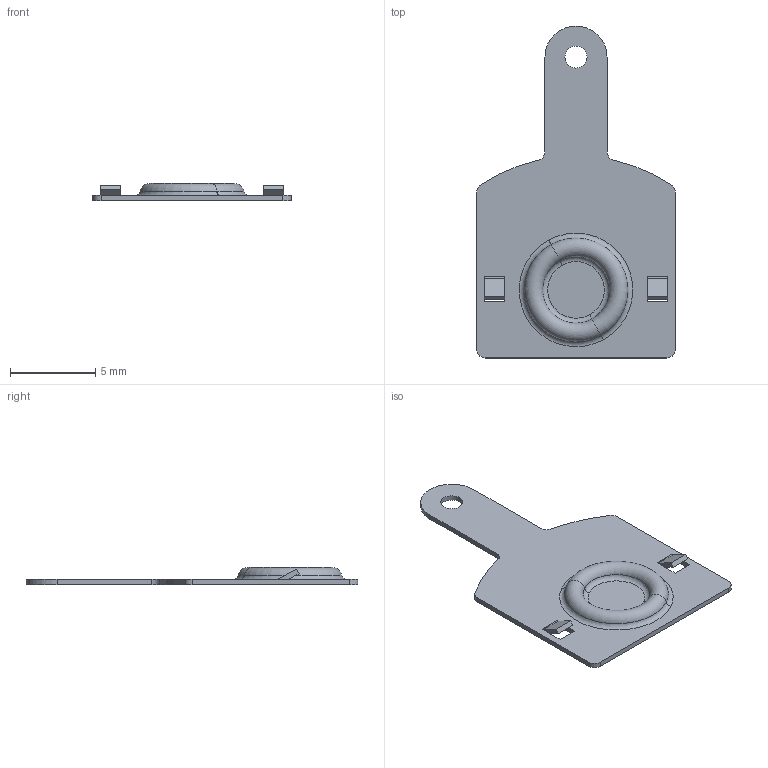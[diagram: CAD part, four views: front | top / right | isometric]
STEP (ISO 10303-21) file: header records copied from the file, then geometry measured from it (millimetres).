
FILE_DESCRIPTION(('CATIA V5 STEP Exchange'),'2;1');
FILE_NAME('X:\XDrive\Homepage\homes\techecke\elektronik\download\AA-Batteriekontakt_Plus.stp','2026-05-14T12:19:27+00:00',('none'),('none'),'CATIA Version 5 Release 19 SP 2 (IN-10)','CATIA V5 STEP AP203','none');
FILE_SCHEMA(('CONFIG_CONTROL_DESIGN'));
Length unit declared in the file: millimetre
Products named in the file (1): AA-Batteriekontakt_Plus
Bounding box: 11.65 x 19.5 x 1 mm (x, y, z)
Volume: 50.2 mm3; surface area: 356.9 mm2
Topology: 1 solids, 1 shells, 52 faces, 132 edges, 84 vertices
Faces by surface type: plane 25, cylinder 15, torus 12
Entity records: 1494 total; most frequent: ORIENTED_EDGE 264, CARTESIAN_POINT 253, DIRECTION 204, EDGE_CURVE 132, AXIS2_PLACEMENT_3D 95, VERTEX_POINT 84, VECTOR 74, LINE 74
